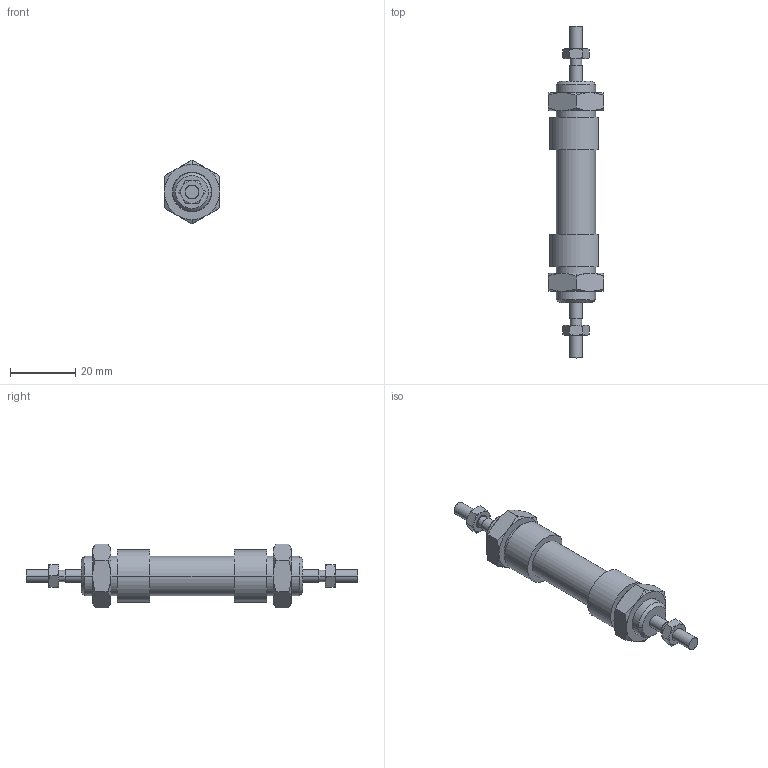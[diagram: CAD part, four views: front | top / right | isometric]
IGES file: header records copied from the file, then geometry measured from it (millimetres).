
Global section: file name: No Iges File Name specified; native system: AutoDesk Inventor R6.0; preprocessor: AutoDesk Inventor Iges Exporter R6.0; author: No Author specified; organization: No Organization specified; date: 20030403.071832; units: millimetre
Bounding box: 17 x 102 x 19.63 mm (x, y, z)
Volume: 11463 mm3; surface area: 7433.8 mm2
Topology: 6 solids, 6 shells, 172 faces, 374 edges, 220 vertices
Faces by surface type: cone 68, plane 46, bspline 32, cylinder 20, revolution 6
